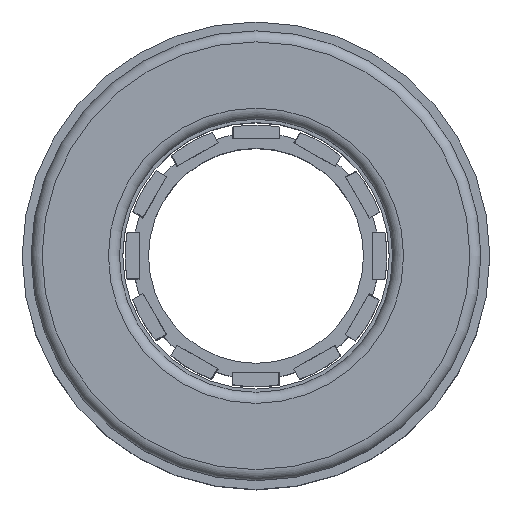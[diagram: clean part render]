
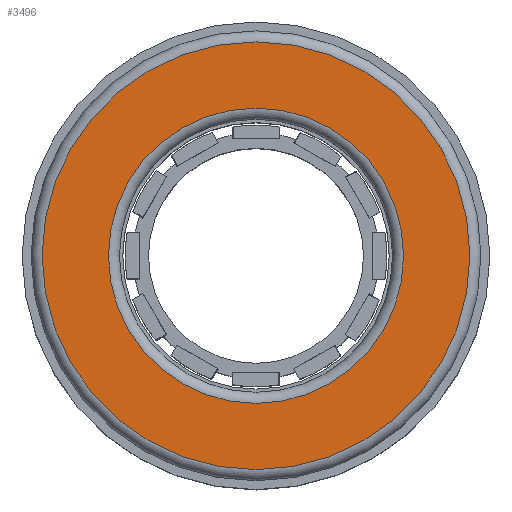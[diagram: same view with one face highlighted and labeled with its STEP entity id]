
A CAD part, top view. The second image highlights one B-rep face of the part: STEP entity #3496.
In plain terms, the highlighted planar face has unit normal (0, 0, 1).
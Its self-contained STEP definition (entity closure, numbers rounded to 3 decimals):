
#183=FACE_BOUND($,#599,.T.);
#208=PLANE($,#3779);
#381=FACE_OUTER_BOUND($,#598,.T.);
#598=EDGE_LOOP($,(#2441));
#599=EDGE_LOOP($,(#2442));
#834=CIRCLE($,#3778,40.085);
#835=CIRCLE($,#3780,58.085);
#1652=VERTEX_POINT($,#5268);
#1653=VERTEX_POINT($,#5271);
#1968=EDGE_CURVE($,#1652,#1652,#834,.T.);
#1969=EDGE_CURVE($,#1653,#1653,#835,.T.);
#2441=ORIENTED_EDGE($,*,*,#1969,.F.);
#2442=ORIENTED_EDGE($,*,*,#1968,.T.);
#3496=ADVANCED_FACE($,(#381,#183),#208,.T.);
#3778=AXIS2_PLACEMENT_3D($,#5269,#4175,#4176);
#3779=AXIS2_PLACEMENT_3D($,#5270,#4177,#4178);
#3780=AXIS2_PLACEMENT_3D($,#5272,#4179,#4180);
#4175=DIRECTION('center_axis',(0.,0.,-1.));
#4176=DIRECTION('ref_axis',(0.,1.,0.));
#4177=DIRECTION('center_axis',(0.,0.,1.));
#4178=DIRECTION('ref_axis',(1.,0.,0.));
#4179=DIRECTION('center_axis',(0.,0.,-1.));
#4180=DIRECTION('ref_axis',(0.,1.,0.));
#5268=CARTESIAN_POINT('',(0.,40.085,38.1));
#5269=CARTESIAN_POINT('Origin',(0.,0.,38.1));
#5270=CARTESIAN_POINT('Origin',(0.,49.085,38.1));
#5271=CARTESIAN_POINT('',(0.,58.085,38.1));
#5272=CARTESIAN_POINT('Origin',(0.,0.,38.1));
